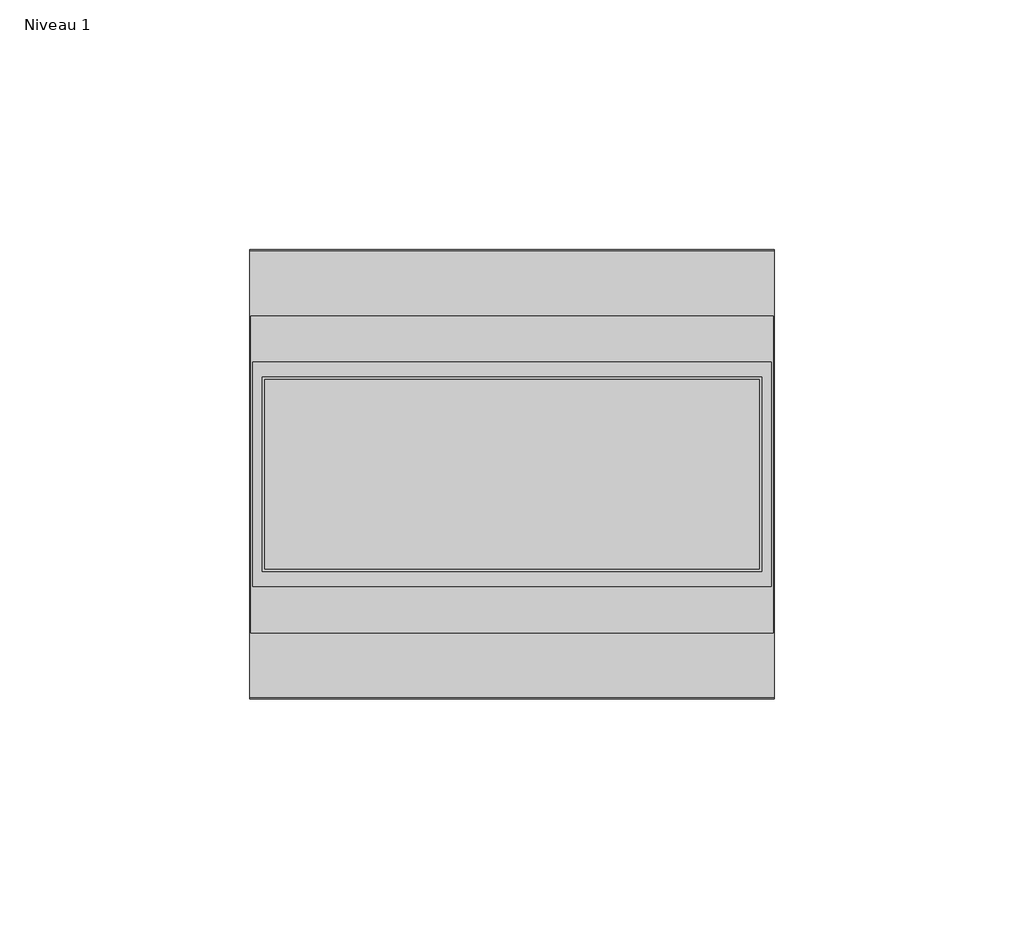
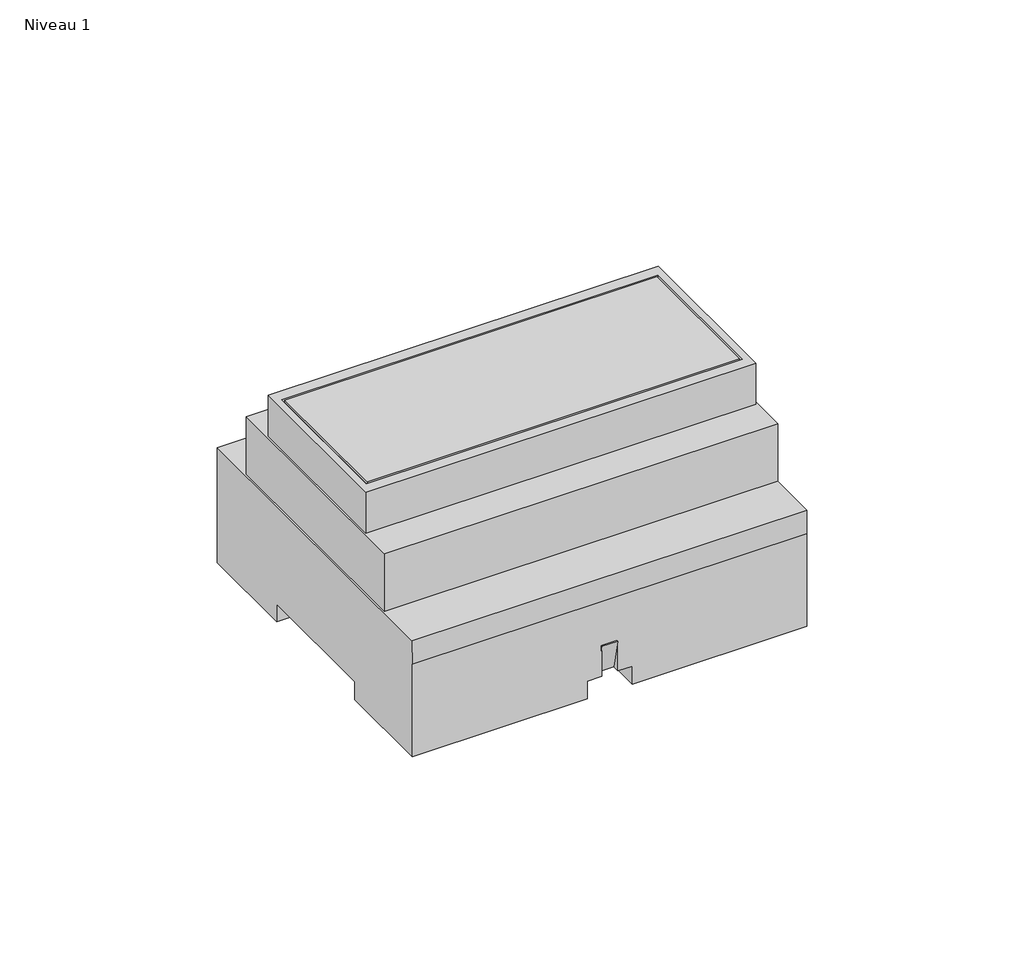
# One storey: 1 proxy.
"""IFC4 building model written with IfcOpenShell, lengths in millimetres."""

from ifc_helpers import new_model, si_unit, origin, place, context, project, spatial, transform, mapped, element, save
from components import electrical_equipment_664c0d9c

model = new_model("IFC4")

# Units and contexts
model_context = context("Model", 3, world=origin())
ifc_project = project(units=[si_unit("LENGTHUNIT", "METRE", prefix="MILLI")], contexts=[model_context])

# Site, building, storey
site = spatial("IfcSite", under=ifc_project)
building = spatial("IfcBuilding", under=site)
storey = spatial("IfcBuildingStorey", under=building, Name="Niveau 1", Elevation=0.0)

# Proxy
placement = place(None, origin())
electrical_equipment_shape = electrical_equipment_664c0d9c(model_context)
element("IfcBuildingElementProxy", 1, Name="SDC-M 12V 3D DIN1 RS : SDC-M 12V 3D DIN1 RS", ObjectType="SDC-M 12V 3D DIN1 RS : SDC-M 12V 3D DIN1 RS", at=placement, inside=storey, context=model_context, shape_type="MappedRepresentation", body=[
    mapped(electrical_equipment_shape, transform((-6118.3015416, 6404.5900564, 0.0), x_axis=(1.0, 0.0, 0.0), y_axis=(0.0, 1.0, 0.0), z_axis=(0.0, 0.0, 1.0))),
])

save(model, "model.ifc")
